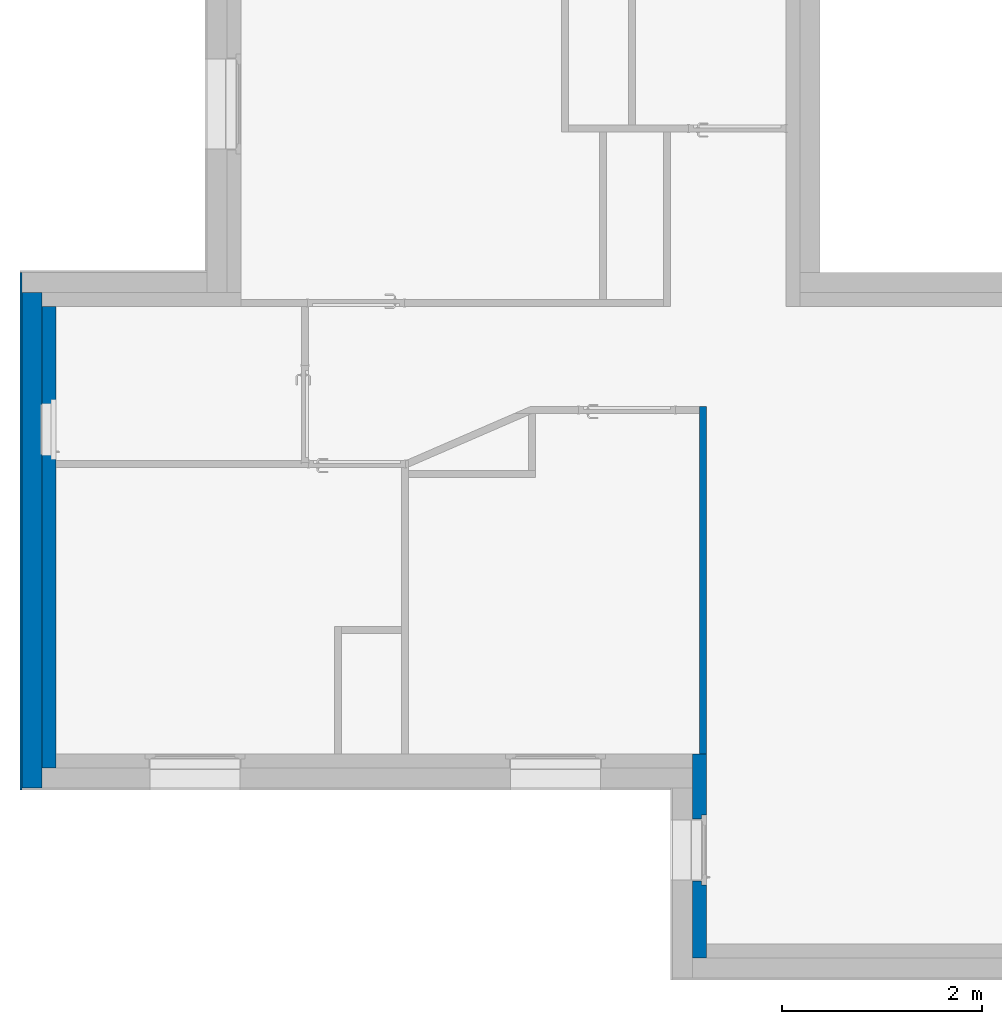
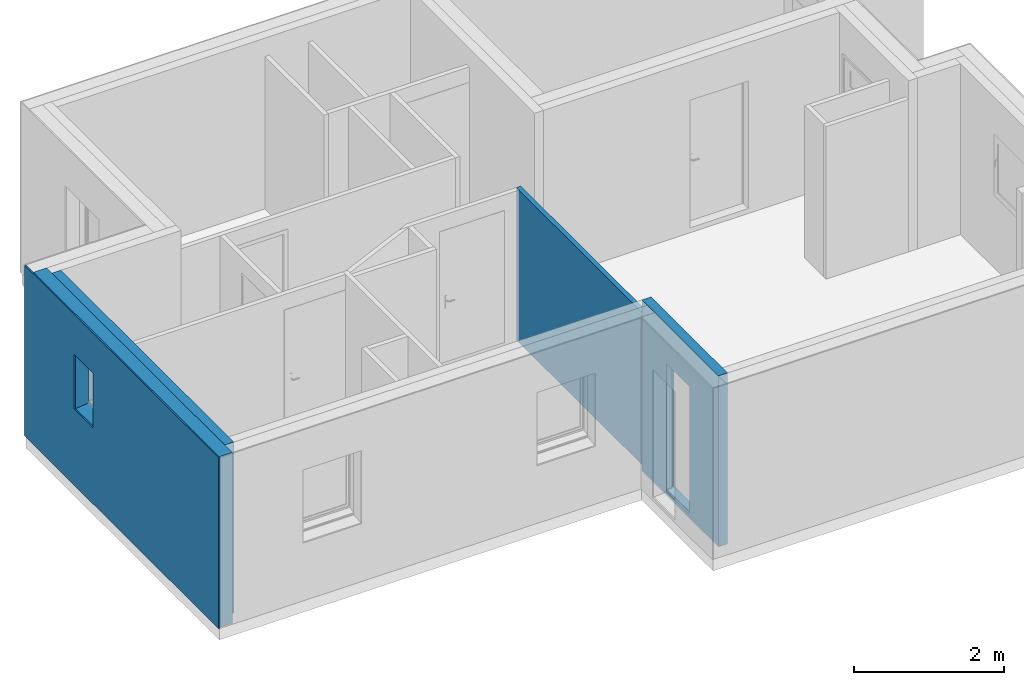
# One storey, part 3 of 11: 5 walls, 4 openings.
"""IFC2X3 building model written with IfcOpenShell, lengths in centimetres."""

from ifc_helpers import new_model, entity, si_unit, converted_unit, derived_unit, direction, frame, frame_2d, origin, place, context, subcontext, project, spatial, rectangle, extrude, faceted_brep, material, layer, layer_set, layer_usage, type_object, element, save


model = new_model("IFC2X3")

# Units and contexts
model_context = context("Model", 3, precision=0.001, world=origin(), true_north=direction((6.123031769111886e-17, 1.0)))
body_context = subcontext(model_context, "Body", "Model", "MODEL_VIEW")
ifc_project = project(units=[si_unit("LENGTHUNIT", "METRE", prefix="CENTI"), si_unit("AREAUNIT", "SQUARE_METRE"), si_unit("VOLUMEUNIT", "CUBIC_METRE"), converted_unit("PLANEANGLEUNIT", "DEGREE", entity("IfcRatioMeasure", 0.017453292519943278), si_unit("PLANEANGLEUNIT", "RADIAN"), dimensions=[0, 0, 0, 0, 0, 0, 0]), si_unit("MASSUNIT", "GRAM", prefix="KILO"), derived_unit("MASSDENSITYUNIT", [(si_unit("MASSUNIT", "GRAM", prefix="KILO"), 1), (si_unit("LENGTHUNIT", "METRE"), -3)]), derived_unit("MOMENTOFINERTIAUNIT", [(si_unit("LENGTHUNIT", "METRE"), 4)]), si_unit("TIMEUNIT", "SECOND"), si_unit("FREQUENCYUNIT", "HERTZ"), si_unit("THERMODYNAMICTEMPERATUREUNIT", "DEGREE_CELSIUS"), derived_unit("THERMALTRANSMITTANCEUNIT", [(si_unit("MASSUNIT", "GRAM", prefix="KILO"), 1), (si_unit("THERMODYNAMICTEMPERATUREUNIT", "KELVIN"), -1), (si_unit("TIMEUNIT", "SECOND"), -3)]), derived_unit("VOLUMETRICFLOWRATEUNIT", [(si_unit("LENGTHUNIT", "METRE"), 3), (si_unit("TIMEUNIT", "SECOND"), -1)]), derived_unit("MASSFLOWRATEUNIT", [(si_unit("MASSUNIT", "GRAM", prefix="KILO"), 1), (si_unit("TIMEUNIT", "SECOND"), -1)]), derived_unit("ROTATIONALFREQUENCYUNIT", [(si_unit("TIMEUNIT", "SECOND"), -1)]), si_unit("ELECTRICCURRENTUNIT", "AMPERE"), si_unit("ELECTRICVOLTAGEUNIT", "VOLT"), si_unit("POWERUNIT", "WATT"), si_unit("FORCEUNIT", "NEWTON", prefix="KILO"), si_unit("ILLUMINANCEUNIT", "LUX"), si_unit("LUMINOUSFLUXUNIT", "LUMEN"), si_unit("LUMINOUSINTENSITYUNIT", "CANDELA"), derived_unit("USERDEFINED", [(si_unit("MASSUNIT", "GRAM", prefix="KILO"), -1), (si_unit("LENGTHUNIT", "METRE"), -2), (si_unit("TIMEUNIT", "SECOND"), 3), (si_unit("LUMINOUSFLUXUNIT", "LUMEN"), 1)]), derived_unit("SOUNDPOWERUNIT", [(si_unit("MASSUNIT", "GRAM", prefix="KILO"), 1), (si_unit("LENGTHUNIT", "METRE"), 2), (si_unit("TIMEUNIT", "SECOND"), -3)]), derived_unit("SOUNDPRESSUREUNIT", [(si_unit("MASSUNIT", "GRAM", prefix="KILO"), 1), (si_unit("LENGTHUNIT", "METRE"), -1), (si_unit("TIMEUNIT", "SECOND"), -2)]), derived_unit("LINEARVELOCITYUNIT", [(si_unit("LENGTHUNIT", "METRE"), 1), (si_unit("TIMEUNIT", "SECOND"), -1)]), si_unit("PRESSUREUNIT", "PASCAL"), derived_unit("USERDEFINED", [(si_unit("LENGTHUNIT", "METRE"), -2), (si_unit("MASSUNIT", "GRAM", prefix="KILO"), 1), (si_unit("TIMEUNIT", "SECOND"), -2)]), derived_unit("LINEARFORCEUNIT", [(si_unit("MASSUNIT", "GRAM", prefix="KILO"), 1), (si_unit("LENGTHUNIT", "METRE"), 1), (si_unit("TIMEUNIT", "SECOND"), -2), (si_unit("LENGTHUNIT", "METRE"), -1)]), derived_unit("PLANARFORCEUNIT", [(si_unit("MASSUNIT", "GRAM", prefix="KILO"), 1), (si_unit("LENGTHUNIT", "METRE"), 1), (si_unit("TIMEUNIT", "SECOND"), -2), (si_unit("LENGTHUNIT", "METRE"), -2)])], contexts=[model_context])

# Site, building, storey
site_placement = place(None, origin())
site = spatial("IfcSite", under=ifc_project, at=site_placement, Name="Default", CompositionType="ELEMENT")
building_placement = place(site_placement, origin())
building = spatial("IfcBuilding", under=site, at=building_placement, CompositionType="ELEMENT")
storey_placement = place(building_placement, frame((0.0, 0.0, -8.0)))
storey = spatial("IfcBuildingStorey", under=building, at=storey_placement, Name="-0.08_Dessus plancher", CompositionType="ELEMENT", Elevation=-8.000000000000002)

# Wall, opening
ifc_material_1 = material(Name="Maçonnerie - Béton")
ifc_layer_1 = layer(ifc_material_1, 20.0)
ifc_layer_set_1 = layer_set([ifc_layer_1], Name="Mur de base:Mur 20")
ifc_layer_usage_1 = layer_usage(ifc_layer_set_1, "AXIS2", "POSITIVE", -10.0)
wall_type_1 = type_object("IfcWallType", Name="Mur de base:Mur 20", PredefinedType="STANDARD", material=ifc_layer_set_1)
wall_1_placement = place(storey_placement, frame((-1621.8253630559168, 580.6042960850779, 0.0), z_axis=(0.0, 0.0, 1.0), x_axis=(0.0, -1.0, 0.0)))
wall_1 = element("IfcWallStandardCase", 1, at=wall_1_placement, inside=storey, type_object=wall_type_1, material=ifc_layer_usage_1, Name="Mur de base:Mur 20", ObjectType="Mur de base:Mur 20", context=body_context, shape_type="SweptSolid", body=[
    extrude(rectangle(XDim=495.0000000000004, YDim=20.0, at=frame_2d((247.50000000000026, -1.3944401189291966e-13), x_axis=(-1.0, 0.0))), origin(), (0.0, 0.0, 1.0), 278.00000000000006),
])
opening_1_placement = place(wall_1_placement, frame((167.0, -33.0, 121.77030941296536)))
element("IfcOpeningElement", 2, at=opening_1_placement, cuts=wall_1, Name="Mur de base:Mur 20", ObjectType="Opening", context=body_context, shape_type="Brep", body=[
    faceted_brep([(-5.0, 45.0, 6.229690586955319), (-5.0, 43.0, 6.229690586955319), (-5.0, 43.0, 91.22969058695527), (-5.0, 0.0, 91.22969058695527), (-5.0, 0.0, 0.0), (-5.0, 45.0, 4.729690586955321), (-55.0, 100.0, 6.229690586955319), (-55.0, 57.0, 6.229690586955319), (-55.0, 57.0, 91.22969058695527), (-55.0, 100.0, 91.22969058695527), (-5.0, 100.0, 6.229690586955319), (-5.0, 57.0, 6.229690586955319), (0.0, 57.0, 6.229690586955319), (0.0, 52.0, 6.229690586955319), (-4.0, 52.0, 6.229690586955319), (-4.0, 43.0, 6.229690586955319), (-55.0, 45.0, 6.229690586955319), (-55.0, 43.0, 6.229690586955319), (-56.0, 43.0, 6.229690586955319), (-56.0, 52.0, 6.229690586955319), (-60.0, 52.0, 6.229690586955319), (-60.0, 57.0, 6.229690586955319), (-5.0, 100.0, 91.22969058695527), (-55.0, 43.0, 91.22969058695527), (-55.0, 0.0, 91.22969058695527), (-55.0, 0.0, 0.0), (-55.0, 45.0, 4.729690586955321), (0.0, 57.0, 96.22969058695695), (0.0, 52.0, 96.22969058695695), (-60.0, 52.0, 96.22969058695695), (-56.0, 52.0, 92.22969058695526), (-4.0, 52.0, 92.22969058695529), (-4.0, 43.0, 92.22969058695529), (-56.0, 43.0, 92.22969058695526), (-5.0, 57.0, 91.22969058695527), (-60.0, 57.0, 96.22969058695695)], [[[0, 1, 2, 3, 4, 5]], [[6, 7, 8, 9]], [[10, 11, 12, 13, 14, 15, 1, 0, 16, 17, 18, 19, 20, 21, 7, 6]], [[10, 6, 9, 22]], [[3, 2, 23, 24]], [[3, 24, 25, 4]], [[4, 25, 26, 5]], [[5, 26, 16, 0]], [[12, 27, 28, 13]], [[13, 28, 29, 20, 19, 30, 31, 14]], [[14, 31, 32, 15]], [[15, 32, 33, 18, 17, 23, 2, 1]], [[11, 34, 8, 7, 21, 35, 27, 12]], [[27, 35, 29, 28]], [[30, 33, 32, 31]], [[29, 35, 21, 20]], [[19, 18, 33, 30]], [[9, 8, 34, 22]], [[24, 23, 17, 16, 26, 25]], [[22, 34, 11, 10]]]),
])

ifc_material_2 = material(Name="Maçonnerie - Enduit")
ifc_layer_2 = layer(ifc_material_2, 2.0)
ifc_layer_set_2 = layer_set([ifc_layer_2], Name="Mur de base:Enduit 2")
ifc_layer_usage_2 = layer_usage(ifc_layer_set_2, "AXIS2", "POSITIVE", -1.0)
wall_type_2 = type_object("IfcWallType", Name="Mur de base:Enduit 2", PredefinedType="STANDARD", material=ifc_layer_set_2)
wall_2_placement = place(storey_placement, frame((-1632.825363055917, 600.6042960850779, 0.0), z_axis=(0.0, 0.0, 1.0), x_axis=(0.0, -1.0, 0.0)))
wall_2 = element("IfcWallStandardCase", 3, at=wall_2_placement, inside=storey, type_object=wall_type_2, material=ifc_layer_usage_2, Name="Mur de base:Enduit 2", ObjectType="Mur de base:Enduit 2", context=body_context, shape_type="SweptSolid", body=[
    extrude(rectangle(XDim=517.0000000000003, YDim=1.9999999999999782, at=frame_2d((258.50000000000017, 1.7208456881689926e-15), x_axis=(-1.0, 0.0))), origin(), (0.0, 0.0, 1.0), 278.00000000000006),
])
opening_2_placement = place(wall_2_placement, frame((187.0, -22.0, 121.77030941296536)))
element("IfcOpeningElement", 4, at=opening_2_placement, cuts=wall_2, Name="Mur de base:Enduit 2", ObjectType="Opening", context=body_context, shape_type="Brep", body=[
    faceted_brep([(-5.0, 45.0, 6.229690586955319), (-5.0, 43.0, 6.229690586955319), (-5.0, 43.0, 91.22969058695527), (-5.0, 0.0, 91.22969058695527), (-5.0, 0.0, 0.0), (-5.0, 45.0, 4.729690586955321), (-55.0, 100.0, 6.229690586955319), (-55.0, 57.0, 6.229690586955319), (-55.0, 57.0, 91.22969058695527), (-55.0, 100.0, 91.22969058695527), (-5.0, 100.0, 6.229690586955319), (-5.0, 57.0, 6.229690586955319), (0.0, 57.0, 6.229690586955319), (0.0, 52.0, 6.229690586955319), (-4.0, 52.0, 6.229690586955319), (-4.0, 43.0, 6.229690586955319), (-55.0, 45.0, 6.229690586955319), (-55.0, 43.0, 6.229690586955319), (-56.0, 43.0, 6.229690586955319), (-56.0, 52.0, 6.229690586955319), (-60.0, 52.0, 6.229690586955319), (-60.0, 57.0, 6.229690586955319), (-5.0, 100.0, 91.22969058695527), (-55.0, 43.0, 91.22969058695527), (-55.0, 0.0, 91.22969058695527), (-55.0, 0.0, 0.0), (-55.0, 45.0, 4.729690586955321), (0.0, 57.0, 96.22969058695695), (0.0, 52.0, 96.22969058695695), (-60.0, 52.0, 96.22969058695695), (-56.0, 52.0, 92.22969058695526), (-4.0, 52.0, 92.22969058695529), (-4.0, 43.0, 92.22969058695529), (-56.0, 43.0, 92.22969058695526), (-5.0, 57.0, 91.22969058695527), (-60.0, 57.0, 96.22969058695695)], [[[0, 1, 2, 3, 4, 5]], [[6, 7, 8, 9]], [[10, 11, 12, 13, 14, 15, 1, 0, 16, 17, 18, 19, 20, 21, 7, 6]], [[10, 6, 9, 22]], [[3, 2, 23, 24]], [[3, 24, 25, 4]], [[4, 25, 26, 5]], [[5, 26, 16, 0]], [[12, 27, 28, 13]], [[13, 28, 29, 20, 19, 30, 31, 14]], [[14, 31, 32, 15]], [[15, 32, 33, 18, 17, 23, 2, 1]], [[11, 34, 8, 7, 21, 35, 27, 12]], [[27, 35, 29, 28]], [[30, 33, 32, 31]], [[29, 35, 21, 20]], [[19, 18, 33, 30]], [[9, 8, 34, 22]], [[24, 23, 17, 16, 26, 25]], [[22, 34, 11, 10]]]),
])

ifc_material_3 = material(Name="Isolant rigide")
ifc_layer_3 = layer(ifc_material_3, 14.0)
ifc_layer_set_3 = layer_set([ifc_layer_3], Name="Mur de base:Doublage 14")
ifc_layer_usage_3 = layer_usage(ifc_layer_set_3, "AXIS2", "NEGATIVE", 7.0)
wall_type_3 = type_object("IfcWallType", Name="Mur de base:Doublage 14", PredefinedType="STANDARD", material=ifc_layer_set_3)
wall_3_placement = place(storey_placement, frame((-954.8253630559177, -84.39570391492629, 0.0), z_axis=(0.0, 0.0, 1.0), x_axis=(0.0, 1.0, 0.0)))
wall_3 = element("IfcWallStandardCase", 5, at=wall_3_placement, inside=storey, type_object=wall_type_3, material=ifc_layer_usage_3, Name="Mur de base:Doublage 14", ObjectType="Mur de base:Doublage 14", context=body_context, shape_type="SweptSolid", body=[
    extrude(rectangle(XDim=204.00000000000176, YDim=13.999999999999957, at=frame_2d((102.0000000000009, 6.616929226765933e-14), x_axis=(-1.0, 0.0))), origin(), (0.0, 0.0, 1.0), 278.00000000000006),
])
opening_3_placement = place(wall_3_placement, frame((73.0, 50.0, 1.7703094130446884), z_axis=(0.0, 0.0, 1.0), x_axis=(0.0, -1.0, 0.0)))
element("IfcOpeningElement", 6, at=opening_3_placement, cuts=wall_3, Name="Mur de base:Doublage 14", ObjectType="Opening", context=body_context, shape_type="Brep", body=[
    faceted_brep([(45.0, 5.0, 6.229690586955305), (43.0, 5.0, 6.229690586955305), (43.0, 5.0, 211.22969058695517), (0.0, 5.0, 211.22969058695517), (0.0, 5.0, 0.0), (45.0, 5.0, 4.729690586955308), (100.0, 65.0, 6.229690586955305), (57.0, 65.0, 6.229690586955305), (57.0, 65.0, 211.22969058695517), (100.0, 65.0, 211.22969058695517), (100.0, 5.0, 6.229690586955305), (57.0, 5.0, 6.229690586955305), (57.0, 0.0, 6.229690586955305), (52.0, 0.0, 6.229690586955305), (52.0, 4.0, 6.229690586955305), (43.0, 4.0, 6.229690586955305), (45.0, 65.0, 6.229690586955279), (43.0, 65.0, 6.229690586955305), (43.0, 66.0, 6.229690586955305), (52.0, 66.0, 6.229690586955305), (52.0, 70.0, 6.229690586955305), (57.0, 70.0, 6.229690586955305), (100.0, 5.0, 211.22969058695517), (43.0, 65.0, 211.22969058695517), (0.0, 65.0, 211.22969058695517), (0.0, 65.0, 0.0), (45.0, 65.0, 4.729690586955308), (57.0, 0.0, 216.22969058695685), (52.0, 0.0, 216.22969058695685), (52.0, 70.0, 216.22969058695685), (52.0, 66.0, 212.22969058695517), (52.0, 4.0, 212.22969058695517), (43.0, 4.0, 212.22969058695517), (43.0, 66.0, 212.22969058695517), (57.0, 5.0, 211.22969058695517), (57.0, 70.0, 216.22969058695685)], [[[0, 1, 2, 3, 4, 5]], [[6, 7, 8, 9]], [[10, 11, 12, 13, 14, 15, 1, 0, 16, 17, 18, 19, 20, 21, 7, 6]], [[10, 6, 9, 22]], [[3, 2, 23, 24]], [[3, 24, 25, 4]], [[4, 25, 26, 5]], [[5, 26, 16, 0]], [[12, 27, 28, 13]], [[13, 28, 29, 20, 19, 30, 31, 14]], [[14, 31, 32, 15]], [[15, 32, 33, 18, 17, 23, 2, 1]], [[11, 34, 8, 7, 21, 35, 27, 12]], [[27, 35, 29, 28]], [[30, 33, 32, 31]], [[29, 35, 21, 20]], [[19, 18, 33, 30]], [[9, 8, 34, 22]], [[24, 23, 17, 16, 26, 25]], [[22, 34, 11, 10]]]),
])

ifc_layer_usage_4 = layer_usage(ifc_layer_set_3, "AXIS2", "NEGATIVE", 7.0)
wall_4_placement = place(storey_placement, frame((-1604.8253630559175, 105.60429608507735, 0.0), z_axis=(0.0, 0.0, 1.0), x_axis=(0.0, 1.0, 0.0)))
wall_4 = element("IfcWallStandardCase", 7, at=wall_4_placement, inside=storey, type_object=wall_type_3, material=ifc_layer_usage_4, Name="Mur de base:Doublage 14", ObjectType="Mur de base:Doublage 14", context=body_context, shape_type="SweptSolid", body=[
    extrude(rectangle(XDim=461.0000000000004, YDim=14.000000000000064, at=frame_2d((230.5000000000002, -1.2079226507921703e-13), x_axis=(-1.0, 0.0))), origin(), (0.0, 0.0, 1.0), 278.00000000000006),
])
opening_4_placement = place(wall_4_placement, frame((308.0, 50.0, 121.77030941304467), z_axis=(0.0, 0.0, 1.0), x_axis=(0.0, -1.0, 0.0)))
element("IfcOpeningElement", 8, at=opening_4_placement, cuts=wall_4, Name="Mur de base:Doublage 14", ObjectType="Opening", context=body_context, shape_type="Brep", body=[
    faceted_brep([(45.0, 5.0, 6.229690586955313), (43.0, 5.0, 6.229690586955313), (43.0, 5.0, 91.22969058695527), (0.0, 5.0, 91.22969058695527), (0.0, 5.0, 0.0), (45.0, 5.0, 4.729690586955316), (100.0, 55.0, 6.229690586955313), (57.0, 55.0, 6.229690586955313), (57.0, 55.0, 91.22969058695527), (100.0, 55.0, 91.22969058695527), (100.0, 5.0, 6.229690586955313), (57.0, 5.0, 6.229690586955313), (57.0, 0.0, 6.229690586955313), (52.0, 0.0, 6.229690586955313), (52.0, 4.0, 6.229690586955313), (43.0, 4.0, 6.229690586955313), (45.0, 55.0, 6.229690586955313), (43.0, 55.0, 6.229690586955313), (43.0, 56.0, 6.229690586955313), (52.0, 56.0, 6.229690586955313), (52.0, 60.0, 6.229690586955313), (57.0, 60.0, 6.229690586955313), (100.0, 5.0, 91.22969058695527), (43.0, 55.0, 91.22969058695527), (0.0, 55.0, 91.22969058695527), (0.0, 55.0, 0.0), (45.0, 55.0, 4.729690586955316), (57.0, 0.0, 96.22969058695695), (52.0, 0.0, 96.22969058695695), (52.0, 60.0, 96.22969058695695), (52.0, 56.0, 92.22969058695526), (52.0, 4.0, 92.22969058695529), (43.0, 4.0, 92.22969058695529), (43.0, 56.0, 92.22969058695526), (57.0, 5.0, 91.22969058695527), (57.0, 60.0, 96.22969058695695)], [[[0, 1, 2, 3, 4, 5]], [[6, 7, 8, 9]], [[10, 11, 12, 13, 14, 15, 1, 0, 16, 17, 18, 19, 20, 21, 7, 6]], [[10, 6, 9, 22]], [[3, 2, 23, 24]], [[3, 24, 25, 4]], [[4, 25, 26, 5]], [[5, 26, 16, 0]], [[12, 27, 28, 13]], [[13, 28, 29, 20, 19, 30, 31, 14]], [[14, 31, 32, 15]], [[15, 32, 33, 18, 17, 23, 2, 1]], [[11, 34, 8, 7, 21, 35, 27, 12]], [[27, 35, 29, 28]], [[30, 33, 32, 31]], [[29, 35, 21, 20]], [[19, 18, 33, 30]], [[9, 8, 34, 22]], [[24, 23, 17, 16, 26, 25]], [[22, 34, 11, 10]]]),
])

# Wall
ifc_material_4 = material(Name="Mur par défaut")
ifc_layer_4 = layer(ifc_material_4, 7.0)
ifc_layer_set_4 = layer_set([ifc_layer_4], Name="Mur de base:Cloison 7cm")
ifc_layer_usage_5 = layer_usage(ifc_layer_set_4, "AXIS2", "POSITIVE", -3.4999999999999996)
wall_type_4 = type_object("IfcWallType", Name="Mur de base:Cloison 7cm", PredefinedType="STANDARD", material=ifc_layer_set_4)
wall_5_placement = place(storey_placement, frame((-951.3253630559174, 119.6042960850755, 0.0), z_axis=(0.0, 0.0, 1.0), x_axis=(0.0, 1.0, 0.0)))
element("IfcWallStandardCase", 9, at=wall_5_placement, inside=storey, type_object=wall_type_4, material=ifc_layer_usage_5, Name="Mur de base:Cloison 7cm", ObjectType="Mur de base:Cloison 7cm", context=body_context, shape_type="SweptSolid", body=[
    extrude(rectangle(XDim=347.0000000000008, YDim=6.9999999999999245, at=frame_2d((173.5000000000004, 1.554312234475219e-14), x_axis=(-1.0, 0.0))), origin(), (0.0, 0.0, 1.0), 248.00000000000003),
])

save(model, "model.ifc")
